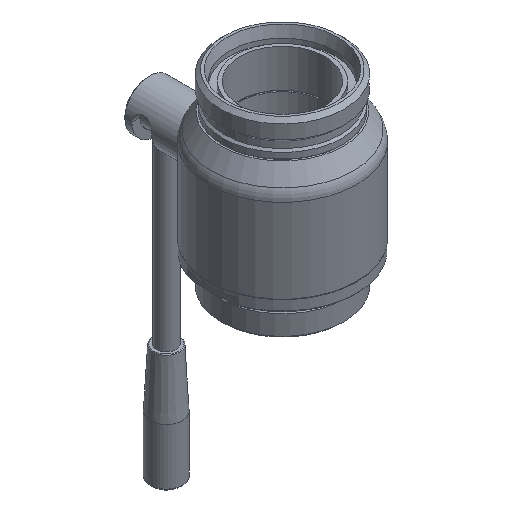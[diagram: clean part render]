
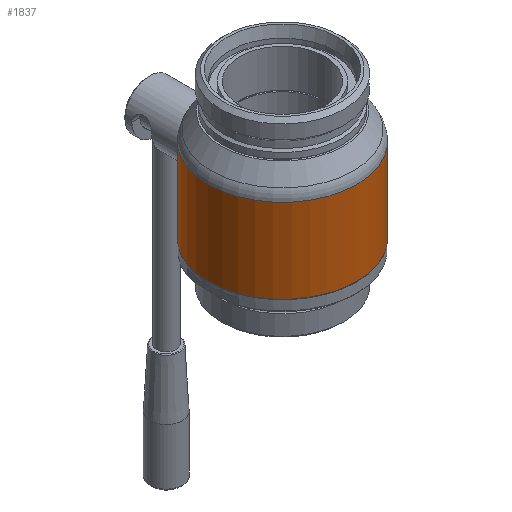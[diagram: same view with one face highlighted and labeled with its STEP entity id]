
A CAD part, isometric view. The second image highlights one B-rep face of the part: STEP entity #1837.
In plain terms, the highlighted cylindrical face has radius 57.15 mm (diameter 114.3 mm), a full revolution.
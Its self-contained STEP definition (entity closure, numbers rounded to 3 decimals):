
#27=B_SPLINE_CURVE_WITH_KNOTS('',3,(#4223,#4224,#4225,#4226,#4227,#4228,
#4229,#4230,#4231,#4232,#4233,#4234,#4235,#4236,#4237,#4238,#4239,#4240,
#4241,#4242,#4243,#4244,#4245,#4246,#4247,#4248,#4249,#4250,#4251,#4252,
#4253),.UNSPECIFIED.,.T.,.F.,(1,1,1,1,1,1,1,1,1,1,1,1,1,1,1,1,1,1,1,1,1,
1,1,1,1,1,1,1,1,1,1,1,1,1,1),(-0.011,-0.007,
-0.004,0.,0.007,0.015,
0.022,0.026,0.03,0.034,
0.037,0.041,0.045,0.049,
0.052,0.056,0.06,0.067,
0.071,0.075,0.079,0.082,
0.086,0.09,0.093,0.097,
0.101,0.105,0.108,0.112,
0.116,0.12,0.127,0.135,
0.142),.UNSPECIFIED.);
#337=ORIENTED_EDGE('',*,*,#667,.T.);
#338=ORIENTED_EDGE('',*,*,#665,.F.);
#339=ORIENTED_EDGE('',*,*,#664,.T.);
#664=EDGE_CURVE('',#857,#857,#27,.T.);
#665=EDGE_CURVE('',#858,#858,#1027,.T.);
#667=EDGE_CURVE('',#860,#860,#1029,.F.);
#857=VERTEX_POINT('',#4254);
#858=VERTEX_POINT('',#4257);
#860=VERTEX_POINT('',#4262);
#1027=CIRCLE('',#3128,57.15);
#1029=CIRCLE('',#3131,57.15);
#1238=EDGE_LOOP('',(#337));
#1239=EDGE_LOOP('',(#338));
#1240=EDGE_LOOP('',(#339));
#1537=FACE_BOUND('',#1238,.T.);
#1538=FACE_BOUND('',#1239,.T.);
#1539=FACE_BOUND('',#1240,.T.);
#1744=CYLINDRICAL_SURFACE('',#3130,57.15);
#1837=ADVANCED_FACE('',(#1537,#1538,#1539),#1744,.T.);
#3128=AXIS2_PLACEMENT_3D('',#4256,#3570,#3571);
#3130=AXIS2_PLACEMENT_3D('',#4260,#3574,#3575);
#3131=AXIS2_PLACEMENT_3D('',#4261,#3576,#3577);
#3570=DIRECTION('',(0.,0.,1.));
#3571=DIRECTION('',(1.,0.,0.));
#3574=DIRECTION('',(0.,0.,1.));
#3575=DIRECTION('',(1.,0.,0.));
#3576=DIRECTION('',(0.,0.,-1.));
#3577=DIRECTION('',(-1.,0.,0.));
#4223=CARTESIAN_POINT('',(-3.75,57.067,19.997));
#4224=CARTESIAN_POINT('',(1.248,57.235,19.501));
#4225=CARTESIAN_POINT('',(7.518,56.803,20.76));
#4226=CARTESIAN_POINT('',(13.784,55.551,24.983));
#4227=CARTESIAN_POINT('',(17.283,54.488,30.187));
#4228=CARTESIAN_POINT('',(18.752,53.988,35.001));
#4229=CARTESIAN_POINT('',(19.124,53.855,38.727));
#4230=CARTESIAN_POINT('',(18.751,53.988,42.511));
#4231=CARTESIAN_POINT('',(17.656,54.361,46.092));
#4232=CARTESIAN_POINT('',(15.89,54.911,49.389));
#4233=CARTESIAN_POINT('',(13.513,55.551,52.276));
#4234=CARTESIAN_POINT('',(10.662,56.176,54.623));
#4235=CARTESIAN_POINT('',(7.343,56.712,56.406));
#4236=CARTESIAN_POINT('',(3.778,57.065,57.496));
#4237=CARTESIAN_POINT('',(-1.255,57.236,58.002));
#4238=CARTESIAN_POINT('',(-6.237,56.892,57.002));
#4239=CARTESIAN_POINT('',(-10.653,56.178,54.629));
#4240=CARTESIAN_POINT('',(-13.515,55.551,52.274));
#4241=CARTESIAN_POINT('',(-15.885,54.912,49.395));
#4242=CARTESIAN_POINT('',(-17.653,54.362,46.097));
#4243=CARTESIAN_POINT('',(-18.748,53.989,42.526));
#4244=CARTESIAN_POINT('',(-19.125,53.855,38.743));
#4245=CARTESIAN_POINT('',(-18.754,53.987,35.013));
#4246=CARTESIAN_POINT('',(-17.654,54.362,31.398));
#4247=CARTESIAN_POINT('',(-15.881,54.913,28.102));
#4248=CARTESIAN_POINT('',(-13.53,55.548,25.238));
#4249=CARTESIAN_POINT('',(-10.632,56.182,22.858));
#4250=CARTESIAN_POINT('',(-7.368,56.709,21.105));
#4251=CARTESIAN_POINT('',(-3.75,57.067,19.997));
#4252=CARTESIAN_POINT('',(1.248,57.235,19.501));
#4253=CARTESIAN_POINT('',(7.518,56.803,20.76));
#4254=CARTESIAN_POINT('',(0.,57.15,19.75));
#4256=CARTESIAN_POINT('',(0.,0.,65.));
#4257=CARTESIAN_POINT('',(57.15,0.,65.));
#4260=CARTESIAN_POINT('',(0.,0.,54.));
#4261=CARTESIAN_POINT('',(0.,0.,0.5));
#4262=CARTESIAN_POINT('',(-57.15,0.,0.5));
